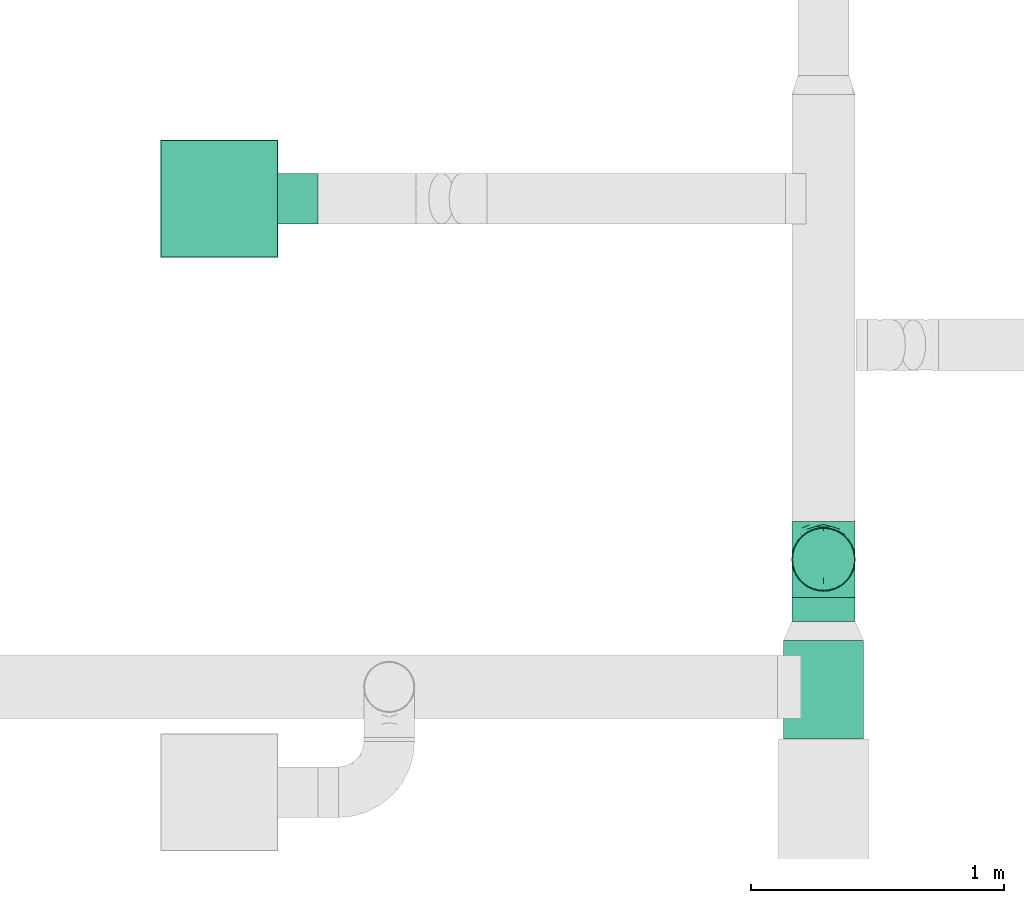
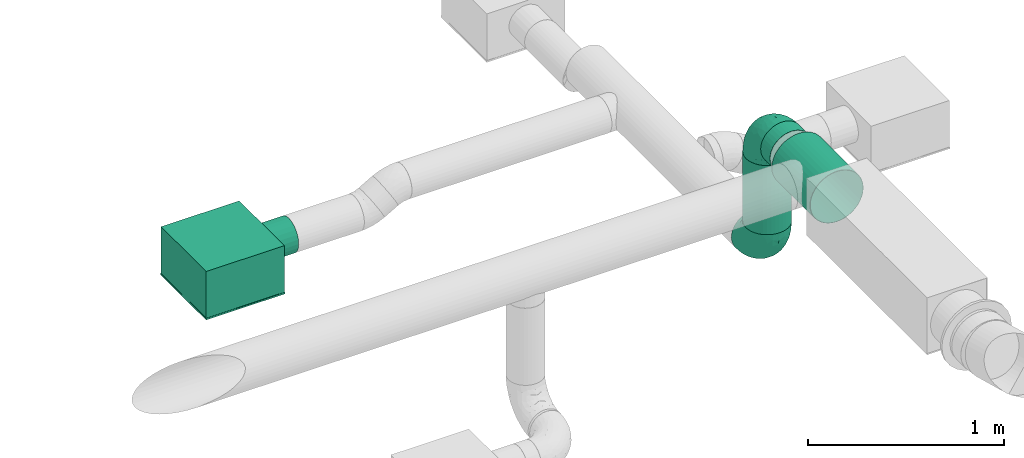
# One storey, part 22 of 31: 3 flow segments, 2 flow fittings, 1 flow terminal.
"""IFC2X3 building model written with IfcOpenShell, lengths in millimetres."""

from ifc_helpers import new_model, entity, si_unit, converted_unit, derived_unit, direction, frame, origin_with_axes, origin_2d_with_axis, place, context, subcontext, project, spatial, hollow_circle, extrude, open_shell, surface_model, source, transform, mapped, type_object, element, save


model = new_model("IFC2X3")

# Units and contexts
model_context = context("Model", 3, precision=0.01, world=frame((0.0, 4.29681676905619e-09, 0.0)), true_north=direction((4.01073788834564e-13, 1.0)))
plan_context = context("Plan", 3, precision=0.01, world=frame((0.0, 4.29681676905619e-09, 0.0)), true_north=direction((4.01073788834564e-13, 1.0)))
body_context = subcontext(model_context, "Body", "Model", "MODEL_VIEW")
ifc_project = project(units=[converted_unit("PLANEANGLEUNIT", "DEGREE", entity("IfcPositiveLengthMeasure", 0.0174532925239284), si_unit("PLANEANGLEUNIT", "RADIAN"), dimensions=[0, 0, 0, 0, 0, 0, 0]), si_unit("AREAUNIT", "SQUARE_METRE"), si_unit("LENGTHUNIT", "METRE", prefix="MILLI"), si_unit("MASSUNIT", "GRAM", prefix="KILO"), si_unit("POWERUNIT", "WATT"), si_unit("PRESSUREUNIT", "PASCAL", prefix="KILO"), si_unit("FORCEUNIT", "NEWTON", prefix="KILO"), si_unit("ELECTRICVOLTAGEUNIT", "VOLT"), si_unit("ELECTRICCURRENTUNIT", "AMPERE"), si_unit("THERMODYNAMICTEMPERATUREUNIT", "DEGREE_CELSIUS"), si_unit("TIMEUNIT", "SECOND"), si_unit("VOLUMEUNIT", "CUBIC_METRE"), derived_unit("LINEARVELOCITYUNIT", [(si_unit("LENGTHUNIT", "METRE"), 1), (si_unit("TIMEUNIT", "SECOND"), -1)]), derived_unit("VOLUMETRICFLOWRATEUNIT", [(si_unit("VOLUMEUNIT", "CUBIC_METRE"), 1), (si_unit("TIMEUNIT", "SECOND"), -1)]), derived_unit("THERMALTRANSMITTANCEUNIT", [(si_unit("POWERUNIT", "WATT"), 1), (si_unit("THERMODYNAMICTEMPERATUREUNIT", "KELVIN"), -1), (si_unit("AREAUNIT", "SQUARE_METRE"), -1)]), derived_unit("SOUNDPRESSUREUNIT", [(si_unit("PRESSUREUNIT", "PASCAL"), 1)])], contexts=[model_context, plan_context])

# Site, building, storey
site_placement = place(None, frame((0.0, -4.29681676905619e-09, 0.0), z_axis=(0.0, 0.0, 1.0), x_axis=(1.0, 0.0, 0.0)))
site = spatial("IfcSite", under=ifc_project, at=site_placement, CompositionType="ELEMENT")
building_placement = place(site_placement, frame((0.0, 4.29681676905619e-09, 0.0), z_axis=(0.0, 0.0, 1.0), x_axis=(1.0, 0.0, 0.0)))
building = spatial("IfcBuilding", under=site, at=building_placement, Name="mc-building", CompositionType="ELEMENT")
storey_placement = place(building_placement, frame((0.0, 0.0, 210900.0), z_axis=(0.0, 0.0, 1.0), x_axis=(1.0, 0.0, 0.0)))
storey = spatial("IfcBuildingStorey", under=building, at=storey_placement, Name="Nivå F", CompositionType="ELEMENT", Elevation=210900.0)

# Flow fittings
duct_fitting_type = type_object("IfcDuctFittingType", Name="magicirc_elbow_short_001", PredefinedType="BEND")
shared_shape_1 = source(origin_with_axes(), body_context, "Body", "SurfaceModel", [
    surface_model("IfcShellBasedSurfaceModel", [(-150.0, 0.0, -125.0), (-150.0, -32.35238, -120.74073), (-150.0, 32.35238, -120.74073), (-150.0, 62.5, -108.25318), (-150.0, 88.38835, -88.38835), (-150.0, 108.25318, -62.5), (-150.0, 120.74073, -32.35238), (-150.0, -62.5, -108.25318), (-150.0, -88.38835, -88.38835), (-150.0, -125.0, 0.0), (-150.0, -108.25318, -62.5), (-150.0, -120.74073, -32.35238), (-150.0, 125.0, 0.0), (-150.0, -120.74073, 32.35238), (-150.0, 120.74073, 32.35238), (-150.0, 108.25318, 62.5), (-150.0, 32.35238, 120.74073), (-150.0, 62.5, 108.25318), (-150.0, 88.38835, 88.38835), (-150.0, -88.38835, 88.38835), (-150.0, -108.25318, 62.5), (-150.0, -32.35238, 120.74073), (-150.0, 0.0, 125.0), (-150.0, -62.5, 108.25318), (-32.35238, 150.0, -120.74073), (88.38835, 150.0, -88.38835), (0.0, 150.0, -125.0), (-88.38835, 150.0, -88.38835), (-62.5, 150.0, -108.25318), (-108.25318, 150.0, -62.5), (-120.74073, 150.0, -32.35238), (88.38835, 150.0, 88.38835), (32.35238, 150.0, -120.74073), (62.5, 150.0, -108.25318), (120.74073, 150.0, -32.35238), (108.25318, 150.0, -62.5), (125.0, 150.0, 0.0), (-125.0, 150.0, 0.0), (-120.74073, 150.0, 32.35238), (-32.35238, 150.0, 120.74073), (-108.25318, 150.0, 62.5), (-88.38835, 150.0, 88.38835), (-62.5, 150.0, 108.25318), (120.74073, 150.0, 32.35238), (108.25318, 150.0, 62.5), (62.5, 150.0, 108.25318), (0.0, 150.0, 125.0), (32.35238, 150.0, 120.74073), (3.43621, -49.5686, 72.62973), (-18.36868, -48.37229, 88.70337), (-18.83692, -66.65046, 70.44253), (-111.90441, -117.21345, 35.28889), (-118.95041, -121.94188, 0.0), (25.86906, 108.55436, 121.17479), (-75.7772, -90.32158, 72.9261), (-74.87608, -74.03385, 90.43438), (-106.18274, -83.07991, 89.59712), (-96.35016, -119.71595, 0.0), (-46.47779, 70.62109, 123.46212), (-76.11794, 76.11794, 116.41901), (-69.40624, 48.8823, 123.2752), (-124.4932, -102.85852, 69.13391), (61.55426, -23.61809, 0.0), (70.72079, -10.51336, 22.73937), (52.73629, -32.74631, 22.58023), (-124.77817, -54.06971, 111.94259), (-90.65624, -57.4337, 106.30719), (32.14495, -52.26832, 26.33949), (-0.28194, -75.27927, 33.26458), (23.61809, -61.55426, 0.0), (-95.68999, 131.65378, 83.88297), (-69.77814, 120.80048, 106.99559), (-67.0959, -108.40643, 29.86559), (-70.55611, -111.89141, 0.0), (-44.76206, -104.06687, 0.0), (-59.72745, 94.86231, 116.91683), (-108.55438, -25.86905, 121.17479), (54.06971, 124.77816, 111.94259), (-27.02672, -92.24399, 28.66038), (-115.00313, 7.3209, 124.96177), (37.68395, -37.68396, 47.97943), (-29.53309, 7.28525, 119.4722), (-3.39232, -9.52602, 105.74117), (0.96712, 29.12319, 117.22512), (-136.08989, 114.55349, 55.66419), (-123.43379, 95.73566, 87.17875), (-119.07435, 119.07435, 65.82439), (-129.09162, 129.09162, 33.48663), (-137.5, 128.34936, 0.0), (-121.4114, 69.81738, 106.84783), (-150.0, 47.42619, 114.49695), (-128.63564, 33.72653, 120.89263), (-27.58141, -83.17169, 52.68646), (-47.99632, -78.87458, 74.22581), (-54.84475, -96.13379, 51.52422), (103.28598, 90.85645, 59.18699), (90.74371, 74.5558, 71.84785), (96.43496, 48.91625, 45.66343), (-41.1276, 38.26732, 124.85571), (102.85852, 124.4932, 69.13391), (83.07991, 106.18274, 89.59712), (-94.00852, 107.9804, 96.05098), (74.96021, 76.43193, 90.06036), (117.21345, 111.90441, 35.28889), (121.94188, 118.95041, 0.0), (-47.30293, -61.16044, 91.82798), (78.87458, 47.99631, 74.22581), (76.94281, 15.76685, 52.00246), (-101.88517, 84.02177, 104.66367), (110.18665, 71.48082, 28.20521), (111.89141, 70.55611, 0.0), (55.40218, 7.25052, 74.8198), (24.63024, -24.60151, 78.91029), (58.21029, -16.89277, 44.41752), (57.4337, 90.65623, 106.30718), (30.02154, 57.30162, 113.4468), (-128.34936, 137.5, 0.0), (-73.97464, 6.61086, 124.39367), (-33.52256, 127.66016, 120.99202), (-7.19958, 114.11429, 124.96953), (-18.42999, 93.20127, 124.82066), (14.9991, 81.71173, 121.69074), (-109.70554, 132.7303, 65.99174), (-81.52168, -16.35182, 121.37252), (-56.488, -29.68334, 113.41267), (55.20354, 44.94313, 95.60044), (-90.85645, -103.28598, 59.18699), (-26.43187, -29.68413, 104.83883), (-7.20961, 68.77767, 124.18226), (30.67747, 15.69438, 99.90432), (-47.42619, 150.0, 114.49695), (-107.88822, 38.92177, 121.04182), (-96.15013, 61.71268, 115.9946), (-96.31285, 19.15333, 124.70605), (14.59493, -56.28029, 51.4962), (104.06687, 44.76206, 0.0), (102.01943, 45.4582, 23.12647), (89.00824, 19.09141, 24.82271), (119.71595, 96.35016, 0.0), (-20.99012, -91.36051, 0.0), (78.65415, -2.78181, 0.0), (91.36051, 20.99012, 0.0), (2.78181, -78.65415, 0.0), (44.45436, -44.45436, 0.0), (-38.84807, 105.96939, 121.23578), (-120.80048, 69.77814, -106.99559), (54.06971, 124.77816, -111.94259), (-90.65624, -57.4337, -106.30719), (-124.77817, -54.06971, -111.94259), (-108.55438, -25.86906, -121.17479), (-18.36869, -48.37229, -88.70338), (-18.83692, -66.65046, -70.44253), (-47.30293, -61.16045, -91.82798), (-96.31285, 19.15333, -124.70605), (-73.97463, 6.61086, -124.39367), (-115.00313, 7.3209, -124.96177), (14.9991, 81.71175, -121.69074), (25.86906, 108.55438, -121.17479), (30.02154, 57.30164, -113.44681), (-129.09162, 129.09162, -33.48663), (-95.73566, 123.43379, -87.17875), (-84.02176, 101.88516, -104.66368), (-107.9804, 94.00852, -96.05098), (-0.28194, -75.27927, -33.26458), (-131.65378, 95.68999, -83.88297), (-132.7303, 109.70554, -65.99174), (-107.88822, 38.92177, -121.04182), (-128.63564, 33.72653, -120.89263), (-119.07435, 119.07435, -65.82439), (-111.90441, -117.21345, -35.28889), (-76.11794, 76.11793, -116.41901), (-69.69403, 48.67006, -123.27304), (-95.38125, 59.83873, -116.77822), (-106.18274, -83.07991, -89.59712), (-3.39231, -9.52602, -105.74117), (24.63023, -24.60151, -78.91029), (-54.84475, -96.13379, -51.52422), (-75.7772, -90.32158, -72.9261), (-47.99632, -78.87458, -74.22581), (-124.4932, -102.85852, -69.13391), (30.67749, 15.69438, -99.9043), (0.96713, 29.12319, -117.22511), (-69.81738, 121.4114, -106.84784), (-27.02672, -92.24399, -28.66038), (-67.0959, -108.40643, -29.86559), (78.87458, 47.99631, -74.22581), (96.43495, 48.9163, -45.66349), (76.94285, 15.76686, -52.00241), (37.68395, -37.68396, -47.97943), (58.21029, -16.89277, -44.41752), (52.73629, -32.74631, -22.58023), (-48.07357, 68.7261, -123.44788), (-114.55349, 136.08989, -55.66419), (117.21345, 111.90441, -35.28889), (-7.19958, 114.11428, -124.96953), (-27.58141, -83.17169, -52.68646), (-47.42619, 150.0, -114.49695), (-33.52256, 127.66015, -120.99202), (32.14495, -52.26832, -26.33949), (14.59493, -56.28029, -51.4962), (83.07991, 106.18274, -89.59712), (102.85852, 124.4932, -69.13391), (89.00829, 19.0915, -24.82265), (70.72079, -10.51336, -22.73937), (57.4337, 90.65623, -106.30719), (110.18664, 71.4808, -28.20522), (102.0194, 45.45816, -23.12649), (-90.85645, -103.28598, -59.18699), (90.01217, 76.65037, -73.68876), (73.67235, 74.27652, -90.57836), (-29.53307, 7.28526, -119.4722), (-56.488, -29.68334, -113.41267), (-74.87608, -74.03385, -90.43438), (-81.52167, -16.35182, -121.37252), (-26.43187, -29.68413, -104.83883), (103.28598, 90.85645, -59.18699), (-18.42999, 93.20126, -124.82066), (-38.84807, 105.96939, -121.23578), (55.20355, 44.94317, -95.60045), (-150.0, 47.42619, -114.49695), (55.40223, 7.25057, -74.81978), (-61.71268, 96.15012, -115.9946), (-41.12759, 38.26731, -124.85571), (3.43621, -49.56858, -72.62973), (-7.2096, 68.77766, -124.18226)], [open_shell([[[0, 1, 2]], [[3, 2, 4]], [[1, 5, 2]], [[4, 2, 5]], [[5, 1, 6]], [[7, 8, 1]], [[9, 1, 8]], [[10, 11, 8]], [[9, 8, 11]], [[9, 6, 1]], [[9, 12, 6]], [[12, 13, 14]], [[15, 14, 16]], [[16, 17, 18]], [[15, 16, 18]], [[16, 14, 19]], [[20, 19, 13]], [[19, 14, 13]], [[21, 22, 23]], [[19, 23, 22]], [[19, 22, 16]], [[9, 13, 12]], [[24, 25, 26]], [[27, 24, 28]], [[29, 30, 24]], [[29, 24, 27]], [[24, 31, 25]], [[32, 25, 33]], [[32, 26, 25]], [[25, 34, 35]], [[34, 25, 36]], [[25, 31, 36]], [[24, 30, 37]], [[38, 31, 37]], [[39, 38, 40]], [[41, 42, 39]], [[41, 39, 40]], [[31, 38, 39]], [[43, 31, 44]], [[36, 31, 43]], [[45, 46, 47]], [[46, 45, 31]], [[39, 46, 31]], [[31, 24, 37]], [[48, 49, 50]], [[51, 13, 52]], [[53, 47, 46]], [[54, 55, 56]], [[52, 57, 51]], [[58, 59, 60]], [[20, 61, 19]], [[62, 63, 64]], [[65, 56, 66]], [[67, 68, 69]], [[41, 70, 71]], [[72, 73, 74]], [[59, 58, 75]], [[21, 76, 22]], [[77, 45, 47]], [[23, 19, 56]], [[72, 74, 78]], [[79, 16, 22]], [[76, 21, 65]], [[80, 67, 64]], [[81, 82, 83]], [[84, 85, 86]], [[87, 12, 14]], [[12, 87, 88]], [[18, 17, 89]], [[51, 20, 13]], [[18, 89, 85]], [[17, 90, 91]], [[84, 14, 15]], [[91, 90, 16]], [[92, 93, 94]], [[40, 70, 41]], [[95, 96, 97]], [[83, 98, 81]], [[44, 31, 99]], [[100, 31, 45]], [[86, 85, 101]], [[102, 96, 100]], [[103, 104, 43]], [[66, 55, 105]], [[77, 100, 45]], [[103, 43, 44]], [[97, 106, 107]], [[85, 15, 18]], [[108, 85, 89]], [[85, 84, 15]], [[103, 109, 110]], [[111, 112, 113]], [[114, 53, 115]], [[88, 87, 116]], [[60, 117, 98]], [[116, 87, 37]], [[85, 108, 101]], [[38, 37, 87]], [[71, 118, 42]], [[119, 120, 121]], [[122, 38, 87]], [[70, 122, 101]], [[123, 76, 124]], [[114, 115, 125]], [[119, 53, 46]], [[42, 41, 71]], [[77, 53, 114]], [[72, 78, 94]], [[54, 126, 94]], [[21, 23, 65]], [[124, 76, 66]], [[61, 56, 19]], [[76, 123, 79]], [[93, 105, 55]], [[124, 127, 81]], [[102, 100, 114]], [[99, 100, 95]], [[46, 39, 119]], [[115, 121, 128]], [[128, 83, 115]], [[115, 83, 129]], [[75, 101, 59]], [[118, 39, 130]], [[106, 111, 107]], [[125, 111, 106]], [[131, 89, 17]], [[108, 132, 59]], [[118, 119, 39]], [[119, 118, 120]], [[51, 57, 73]], [[61, 51, 126]], [[99, 103, 44]], [[109, 95, 97]], [[76, 79, 22]], [[133, 79, 117]], [[83, 128, 98]], [[129, 83, 82]], [[128, 120, 58]], [[59, 132, 60]], [[129, 82, 112]], [[125, 115, 129]], [[49, 112, 82]], [[80, 134, 67]], [[127, 49, 82]], [[93, 92, 50]], [[111, 125, 129]], [[125, 106, 102]], [[112, 111, 129]], [[111, 113, 107]], [[98, 117, 81]], [[124, 81, 117]], [[63, 113, 64]], [[135, 109, 136]], [[137, 97, 107]], [[97, 136, 109]], [[110, 138, 103]], [[103, 95, 109]], [[78, 74, 139]], [[73, 72, 51]], [[51, 72, 126]], [[68, 134, 50]], [[72, 94, 126]], [[92, 94, 78]], [[54, 94, 93]], [[63, 107, 113]], [[137, 140, 141]], [[68, 92, 78]], [[50, 49, 105]], [[78, 142, 68]], [[68, 142, 69]], [[67, 69, 143]], [[64, 67, 143]], [[68, 67, 134]], [[68, 50, 92]], [[48, 50, 134]], [[80, 48, 134]], [[112, 49, 48]], [[62, 140, 63]], [[80, 64, 113]], [[140, 137, 63]], [[107, 63, 137]], [[64, 143, 62]], [[113, 112, 80]], [[48, 80, 112]], [[55, 54, 93]], [[56, 126, 54]], [[93, 50, 105]], [[56, 55, 66]], [[127, 105, 49]], [[66, 105, 124]], [[132, 108, 89]], [[101, 108, 59]], [[89, 131, 132]], [[60, 98, 58]], [[132, 131, 60]], [[60, 131, 133]], [[128, 58, 98]], [[75, 58, 144]], [[144, 71, 75]], [[101, 75, 71]], [[122, 70, 40]], [[136, 141, 135]], [[71, 70, 101]], [[38, 122, 40]], [[101, 122, 86]], [[84, 87, 14]], [[122, 87, 86]], [[13, 9, 52]], [[104, 103, 138]], [[104, 36, 43]], [[87, 84, 86]], [[51, 61, 20]], [[56, 61, 126]], [[56, 65, 23]], [[76, 65, 66]], [[100, 99, 31]], [[103, 99, 95]], [[53, 77, 47]], [[100, 77, 114]], [[118, 71, 144]], [[120, 118, 144]], [[42, 118, 130]], [[79, 133, 91]], [[79, 91, 16]], [[17, 91, 131]], [[124, 117, 123]], [[79, 123, 117]], [[125, 102, 114]], [[96, 102, 106]], [[97, 96, 106]], [[100, 96, 95]], [[115, 53, 121]], [[119, 121, 53]], [[58, 120, 144]], [[121, 120, 128]], [[60, 133, 117]], [[91, 133, 131]], [[81, 127, 82]], [[105, 127, 124]], [[97, 137, 136]], [[141, 136, 137]], [[109, 135, 110]], [[139, 142, 78]], [[4, 145, 3]], [[32, 33, 146]], [[147, 148, 149]], [[150, 151, 152]], [[153, 154, 155]], [[156, 157, 158]], [[88, 159, 12]], [[160, 161, 162]], [[159, 6, 12]], [[142, 163, 69]], [[162, 164, 165]], [[3, 166, 167]], [[168, 160, 162]], [[159, 165, 6]], [[10, 169, 11]], [[169, 52, 11]], [[170, 171, 172]], [[7, 148, 173]], [[174, 175, 150]], [[176, 177, 178]], [[149, 1, 0]], [[34, 36, 104]], [[10, 8, 179]], [[180, 174, 181]], [[161, 160, 182]], [[183, 74, 184]], [[8, 7, 173]], [[185, 186, 187]], [[188, 189, 190]], [[159, 88, 116]], [[155, 149, 0]], [[37, 30, 159]], [[171, 170, 191]], [[192, 30, 29]], [[193, 35, 34]], [[4, 164, 145]], [[192, 160, 168]], [[24, 26, 194]], [[148, 7, 1]], [[155, 0, 2]], [[157, 194, 26]], [[163, 183, 195]], [[196, 24, 197]], [[198, 163, 199]], [[182, 160, 27]], [[160, 29, 27]], [[200, 33, 25]], [[35, 201, 25]], [[187, 186, 202]], [[203, 62, 190]], [[32, 146, 157]], [[200, 204, 146]], [[205, 135, 206]], [[184, 169, 207]], [[104, 138, 193]], [[34, 104, 193]], [[27, 28, 182]], [[183, 142, 139]], [[32, 157, 26]], [[200, 208, 209]], [[210, 181, 174]], [[147, 149, 211]], [[177, 212, 178]], [[37, 159, 116]], [[179, 173, 207]], [[5, 164, 4]], [[211, 213, 154]], [[210, 211, 154]], [[214, 174, 150]], [[201, 200, 25]], [[208, 200, 215]], [[158, 157, 204]], [[216, 217, 197]], [[204, 209, 218]], [[172, 162, 170]], [[167, 2, 219]], [[180, 175, 174]], [[187, 189, 220]], [[182, 28, 197]], [[161, 221, 170]], [[194, 157, 156]], [[28, 196, 197]], [[179, 169, 10]], [[169, 73, 57]], [[193, 110, 205]], [[201, 193, 215]], [[2, 167, 155]], [[155, 154, 213]], [[180, 181, 158]], [[181, 210, 222]], [[154, 153, 171]], [[170, 221, 191]], [[158, 218, 180]], [[180, 218, 220]], [[175, 180, 220]], [[195, 178, 151]], [[151, 223, 199]], [[212, 152, 178]], [[204, 218, 158]], [[185, 187, 220]], [[185, 220, 218]], [[175, 220, 189]], [[210, 174, 214]], [[154, 222, 210]], [[208, 186, 185]], [[187, 202, 203]], [[205, 186, 215]], [[206, 141, 202]], [[215, 193, 205]], [[169, 184, 73]], [[74, 73, 184]], [[184, 176, 183]], [[176, 184, 207]], [[183, 176, 195]], [[177, 176, 207]], [[195, 176, 178]], [[206, 186, 205]], [[207, 173, 177]], [[178, 152, 151]], [[195, 151, 163]], [[69, 163, 198]], [[142, 183, 163]], [[69, 198, 143]], [[188, 198, 199]], [[190, 143, 198]], [[223, 151, 150]], [[163, 151, 199]], [[150, 175, 223]], [[188, 223, 175]], [[223, 188, 199]], [[175, 189, 188]], [[188, 190, 198]], [[190, 189, 203]], [[187, 203, 189]], [[202, 140, 203]], [[62, 203, 140]], [[62, 143, 190]], [[212, 173, 147]], [[173, 212, 177]], [[147, 211, 152]], [[147, 152, 212]], [[214, 152, 211]], [[221, 161, 182]], [[162, 161, 170]], [[182, 217, 221]], [[191, 222, 171]], [[221, 217, 191]], [[191, 217, 216]], [[154, 171, 222]], [[172, 166, 145]], [[166, 172, 171]], [[162, 172, 145]], [[165, 164, 5]], [[141, 140, 202]], [[145, 164, 162]], [[6, 165, 5]], [[162, 165, 168]], [[192, 159, 30]], [[165, 159, 168]], [[52, 169, 57]], [[52, 9, 11]], [[160, 192, 29]], [[159, 192, 168]], [[173, 179, 8]], [[169, 179, 207]], [[149, 148, 1]], [[173, 148, 147]], [[193, 201, 35]], [[200, 201, 215]], [[200, 146, 33]], [[157, 146, 204]], [[217, 182, 197]], [[24, 194, 197]], [[216, 197, 194]], [[166, 3, 145]], [[3, 167, 219]], [[167, 166, 153]], [[211, 149, 213]], [[155, 213, 149]], [[186, 208, 215]], [[209, 208, 185]], [[218, 209, 185]], [[200, 209, 204]], [[156, 216, 194]], [[167, 153, 155]], [[171, 153, 166]], [[152, 214, 150]], [[210, 214, 211]], [[141, 206, 135]], [[202, 186, 206]], [[110, 193, 138]], [[110, 135, 205]], [[74, 183, 139]], [[191, 224, 222]], [[181, 222, 224]], [[181, 224, 158]], [[158, 224, 156]], [[156, 224, 216]], [[191, 216, 224]]])]),
])
for number, where, z_axis, x_axis, name in (
    (1, (725584.4603, 441345.1577, 3795.0), (-1.0, 0.0, 0.0), (0.0, 1.0, 0.0), "magicirc_elbow_short_001"),
    (2, (725584.4603, 441345.1577, 3065.0), (1.0, 0.0, 0.0), (0.0, 0.0, -1.0), "magicirc_elbow_short_001"),
):
    element("IfcFlowFitting", number, at=place(storey_placement, frame(where, z_axis=z_axis, x_axis=x_axis)), inside=storey, type_object=duct_fitting_type, Name=name, context=body_context, shape_type="MappedRepresentation", body=[
        mapped(shared_shape_1, transform((0.0, 0.0, 0.0), scale=1.0)),
    ])

# Flow segments
duct_segment_type = type_object("IfcDuctSegmentType", Name="KK001T - Spiro kanaler, Forsinket stål", PredefinedType="RIGIDSEGMENT")
shared_shape_2 = source(origin_with_axes(), body_context, "Body", "SweptSolid", [
    extrude(hollow_circle(Radius=125.0, WallThickness=2.0, at=origin_2d_with_axis()), frame((0.0, 0.0, 0.0), z_axis=(1.0, 0.0, 0.0), x_axis=(0.0, 1.0, 0.0)), (0.0, 0.0, 1.0), 95.0),
])
flow_segment_1_placement = place(storey_placement, frame((725584.4603, 441100.1577, 3795.0), z_axis=(0.0, 0.0, 1.0), x_axis=(0.0, 1.0, 0.0)))
element("IfcFlowSegment", 3, at=flow_segment_1_placement, inside=storey, type_object=duct_segment_type, Name="KK001T - Spiro kanaler, Forsinket stål", context=body_context, shape_type="MappedRepresentation", body=[
    mapped(shared_shape_2, transform((0.0, 0.0, 0.0), scale=1.0)),
])
shared_shape_3 = source(origin_with_axes(), body_context, "Body", "SweptSolid", [
    extrude(hollow_circle(Radius=125.0, WallThickness=2.0, at=origin_2d_with_axis()), frame((0.0, 0.0, 0.0), z_axis=(1.0, 0.0, 0.0), x_axis=(0.0, 1.0, 0.0)), (0.0, 0.0, 1.0), 430.0),
])
flow_segment_2_placement = place(storey_placement, frame((725584.4603, 441345.1577, 3645.0), z_axis=(0.0, 1.0, 0.0), x_axis=(0.0, 0.0, -1.0)))
element("IfcFlowSegment", 4, at=flow_segment_2_placement, inside=storey, type_object=duct_segment_type, Name="KK001T - Spiro kanaler, Forsinket stål", context=body_context, shape_type="MappedRepresentation", body=[
    mapped(shared_shape_3, transform((0.0, 0.0, 0.0), scale=1.0)),
])
shared_shape_4 = source(origin_with_axes(), body_context, "Body", "SweptSolid", [
    extrude(hollow_circle(Radius=157.5, WallThickness=2.0, at=origin_2d_with_axis()), frame((0.0, 0.0, 0.0), z_axis=(1.0, 0.0, 0.0), x_axis=(0.0, 1.0, 0.0)), (0.0, 0.0, 1.0), 388.8),
])
flow_segment_3_placement = place(storey_placement, frame((725584.4603, 441025.1577, 3795.0), z_axis=(0.0, 0.0, 1.0), x_axis=(0.0, -1.0, 0.0)))
element("IfcFlowSegment", 5, at=flow_segment_3_placement, inside=storey, type_object=duct_segment_type, Name="KK001T - Spiro kanaler, Forsinket stål", context=body_context, shape_type="MappedRepresentation", body=[
    mapped(shared_shape_4, transform((0.0, 0.0, 0.0), scale=1.0)),
])

# Flow terminal
air_terminal_type = type_object("IfcAirTerminalType", Name="NS19-H-S-2-200 - 4-way", PredefinedType="NOTDEFINED")
shared_shape_5 = source(origin_with_axes(), body_context, "Body", "SurfaceModel", [
    surface_model("IfcShellBasedSurfaceModel", [(-231.99999, 231.99999, 0.0), (-231.99999, -231.99999, 0.0), (231.99999, -231.99999, 0.0), (231.99999, 231.99999, 0.0), (231.99999, 231.99999, -10.0), (231.99999, -231.99999, -10.0), (-231.99999, -231.99999, -10.0), (-231.99999, 231.99999, -10.0), (-230.0, 230.0, 289.99999), (-230.0, -230.0, 289.99999), (230.0, -230.0, 289.99999), (230.0, 230.0, 289.99999), (230.0, 230.0, 0.0), (230.0, -230.0, 0.0), (-230.0, -230.0, 0.0), (-230.0, 230.0, 0.0), (-230.0, 50.0, 78.39746), (-230.0, 70.71068, 94.28932), (-230.0, 49.9, 78.57067), (-230.0, 25.83014, 68.6006), (-230.0, 0.0, 65.2), (-230.0, 25.8819, 68.40742), (-230.0, 0.0, 65.0), (-230.0, 70.56926, 94.43075), (-230.0, 96.59259, 139.1181), (-230.0, 99.8, 164.99999), (-230.0, 96.39939, 139.16986), (-230.0, 100.0, 164.99999), (-230.0, 86.60254, 115.0), (-230.0, 86.42934, 115.1), (-230.0, -25.83014, 68.6006), (-230.0, -25.8819, 68.40742), (-230.0, -49.9, 78.57067), (-230.0, -70.71068, 94.28932), (-230.0, -50.0, 78.39746), (-230.0, -70.56926, 94.43075), (-230.0, -86.42934, 115.1), (-230.0, -86.60254, 115.0), (-230.0, -96.39939, 139.16986), (-230.0, -96.59259, 139.1181), (-230.0, -99.8, 164.99999), (-230.0, -100.0, 164.99999), (-230.0, 96.59259, 190.8819), (-230.0, 96.39939, 190.83014), (-230.0, 86.42934, 214.9), (-230.0, 86.60254, 214.99999), (-230.0, 70.56926, 235.56925), (-230.0, 70.71068, 235.71069), (-230.0, 50.0, 251.60254), (-230.0, 49.9, 251.42933), (-230.0, 25.83014, 261.3994), (-230.0, 25.8819, 261.59259), (-230.0, 0.0, 264.80001), (-230.0, 0.0, 264.99999), (-230.0, -86.60254, 214.99999), (-230.0, -86.42934, 214.9), (-230.0, -70.71068, 235.71069), (-230.0, -70.56926, 235.56925), (-230.0, -96.59259, 190.8819), (-230.0, -96.39939, 190.83014), (-230.0, -25.83014, 261.3994), (-230.0, -25.8819, 261.59259), (-230.0, -49.9, 251.42933), (-230.0, -50.0, 251.60254), (-390.0, 50.0, 251.60254), (-390.0, 70.71068, 235.71069), (-390.0, 49.9, 251.42933), (-390.0, 25.83014, 261.3994), (-390.0, 0.0, 264.80001), (-390.0, 25.8819, 261.59259), (-390.0, 0.0, 264.99999), (-390.0, 70.56926, 235.56925), (-390.0, 96.59259, 190.8819), (-390.0, 99.8, 164.99999), (-390.0, 96.39939, 190.83014), (-390.0, 100.0, 164.99999), (-390.0, 86.60254, 214.99999), (-390.0, 86.42934, 214.9), (-390.0, -25.83014, 261.3994), (-390.0, -25.8819, 261.59259), (-390.0, -49.9, 251.42933), (-390.0, -70.71068, 235.71069), (-390.0, -50.0, 251.60254), (-390.0, -70.56926, 235.56925), (-390.0, -86.42934, 214.9), (-390.0, -86.60254, 214.99999), (-390.0, -96.39939, 190.83014), (-390.0, -96.59259, 190.8819), (-390.0, -99.8, 164.99999), (-390.0, -100.0, 164.99999), (-390.0, 96.59259, 139.1181), (-390.0, 96.39939, 139.16986), (-390.0, 86.42934, 115.1), (-390.0, 86.60254, 115.0), (-390.0, 70.56926, 94.43075), (-390.0, 70.71068, 94.28932), (-390.0, 50.0, 78.39746), (-390.0, 49.9, 78.57067), (-390.0, 25.83014, 68.6006), (-390.0, 25.8819, 68.40742), (-390.0, 0.0, 65.2), (-390.0, 0.0, 65.0), (-390.0, -86.60254, 115.0), (-390.0, -86.42934, 115.1), (-390.0, -70.71068, 94.28932), (-390.0, -70.56926, 94.43075), (-390.0, -96.59259, 139.1181), (-390.0, -96.39939, 139.16986), (-390.0, -25.83014, 68.6006), (-390.0, -25.8819, 68.40742), (-390.0, -49.9, 78.57067), (-390.0, -50.0, 78.39746)], [open_shell([[[0, 1, 2]], [[2, 3, 0]], [[4, 5, 6]], [[6, 7, 4]], [[2, 1, 6]], [[6, 5, 2]], [[3, 2, 5]], [[5, 4, 3]], [[0, 3, 4]], [[4, 7, 0]], [[1, 0, 7]], [[7, 6, 1]], [[8, 9, 10]], [[10, 11, 8]], [[12, 13, 14]], [[14, 15, 12]], [[10, 9, 13]], [[14, 13, 9]], [[11, 10, 12]], [[13, 12, 10]], [[8, 11, 15]], [[12, 15, 11]], [[9, 8, 14]], [[15, 14, 8]], [[16, 17, 18]], [[16, 18, 19]], [[20, 21, 19]], [[21, 20, 22]], [[19, 21, 16]], [[18, 17, 23]], [[24, 25, 26]], [[25, 24, 27]], [[24, 26, 28]], [[23, 28, 29]], [[28, 23, 17]], [[29, 28, 26]], [[22, 30, 31]], [[31, 30, 32]], [[33, 34, 35]], [[32, 34, 31]], [[32, 35, 34]], [[22, 20, 30]], [[36, 37, 33]], [[37, 36, 38]], [[36, 33, 35]], [[39, 38, 40]], [[38, 39, 37]], [[39, 40, 41]], [[27, 42, 43]], [[43, 42, 44]], [[44, 45, 46]], [[45, 44, 42]], [[46, 45, 47]], [[47, 48, 49]], [[49, 48, 50]], [[50, 51, 52]], [[51, 50, 48]], [[52, 51, 53]], [[49, 46, 47]], [[54, 55, 56]], [[56, 55, 57]], [[55, 54, 58]], [[41, 59, 58]], [[58, 59, 55]], [[41, 40, 59]], [[60, 53, 61]], [[60, 61, 62]], [[57, 63, 56]], [[57, 62, 63]], [[63, 62, 61]], [[52, 53, 60]], [[43, 25, 27]], [[64, 65, 66]], [[64, 66, 67]], [[68, 69, 67]], [[69, 68, 70]], [[67, 69, 64]], [[66, 65, 71]], [[72, 73, 74]], [[73, 72, 75]], [[72, 74, 76]], [[71, 76, 77]], [[76, 71, 65]], [[77, 76, 74]], [[70, 78, 79]], [[79, 78, 80]], [[81, 82, 83]], [[80, 82, 79]], [[80, 83, 82]], [[70, 68, 78]], [[84, 85, 81]], [[85, 84, 86]], [[84, 81, 83]], [[87, 86, 88]], [[86, 87, 85]], [[87, 88, 89]], [[75, 90, 91]], [[91, 90, 92]], [[92, 93, 94]], [[93, 92, 90]], [[94, 93, 95]], [[95, 96, 97]], [[97, 96, 98]], [[98, 99, 100]], [[99, 98, 96]], [[100, 99, 101]], [[97, 94, 95]], [[102, 103, 104]], [[104, 103, 105]], [[103, 102, 106]], [[89, 107, 106]], [[106, 107, 103]], [[89, 88, 107]], [[108, 101, 109]], [[108, 109, 110]], [[105, 111, 104]], [[105, 110, 111]], [[111, 110, 109]], [[100, 101, 108]], [[91, 73, 75]], [[39, 106, 102]], [[104, 37, 102]], [[34, 111, 109]], [[104, 111, 33]], [[31, 109, 101]], [[106, 41, 89]], [[106, 39, 41]], [[102, 37, 39]], [[104, 33, 37]], [[34, 33, 111]], [[109, 31, 34]], [[101, 22, 31]], [[21, 99, 96]], [[95, 16, 96]], [[28, 93, 90]], [[95, 93, 17]], [[24, 90, 75]], [[99, 21, 22]], [[96, 16, 21]], [[95, 17, 16]], [[93, 28, 17]], [[24, 28, 90]], [[75, 27, 24]], [[99, 22, 101]], [[75, 72, 42]], [[48, 64, 69]], [[64, 47, 65]], [[51, 69, 70]], [[72, 45, 42]], [[42, 27, 75]], [[76, 47, 45]], [[76, 65, 47]], [[47, 64, 48]], [[69, 51, 48]], [[76, 45, 72]], [[70, 53, 51]], [[61, 79, 82]], [[81, 63, 82]], [[54, 85, 87]], [[81, 85, 56]], [[58, 87, 89]], [[79, 61, 53]], [[82, 63, 61]], [[81, 56, 63]], [[85, 54, 56]], [[58, 54, 87]], [[89, 41, 58]], [[79, 53, 70]], [[103, 107, 38]], [[103, 36, 105]], [[108, 110, 32]], [[35, 110, 105]], [[100, 108, 30]], [[88, 40, 107]], [[40, 38, 107]], [[38, 36, 103]], [[36, 35, 105]], [[110, 35, 32]], [[32, 30, 108]], [[30, 20, 100]], [[97, 98, 19]], [[97, 18, 94]], [[91, 92, 29]], [[23, 92, 94]], [[73, 91, 26]], [[20, 19, 98]], [[19, 18, 97]], [[18, 23, 94]], [[23, 29, 92]], [[91, 29, 26]], [[26, 25, 73]], [[100, 20, 98]], [[43, 74, 73]], [[67, 66, 49]], [[71, 46, 66]], [[68, 67, 50]], [[43, 44, 74]], [[73, 25, 43]], [[44, 46, 77]], [[46, 71, 77]], [[49, 66, 46]], [[49, 50, 67]], [[74, 44, 77]], [[50, 52, 68]], [[80, 78, 60]], [[80, 62, 83]], [[86, 84, 55]], [[57, 84, 83]], [[88, 86, 59]], [[52, 60, 78]], [[60, 62, 80]], [[62, 57, 83]], [[57, 55, 84]], [[86, 55, 59]], [[59, 40, 88]], [[68, 52, 78]]])]),
])
flow_terminal_placement = place(storey_placement, frame((723200.5018, 442768.69981, 2799.98813000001), z_axis=(0.0, 0.0, 1.0), x_axis=(-1.0, 0.0, 0.0)))
element("IfcFlowTerminal", 6, at=flow_terminal_placement, inside=storey, type_object=air_terminal_type, Name="NS19-H-S-2-200 - 4-way", context=body_context, shape_type="MappedRepresentation", body=[
    mapped(shared_shape_5, transform((0.0, 0.0, 0.0), scale=1.0)),
])

save(model, "model.ifc")
